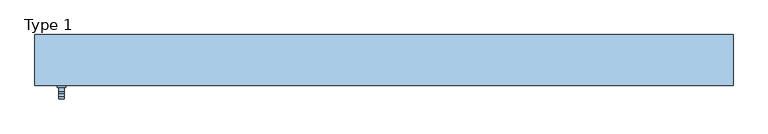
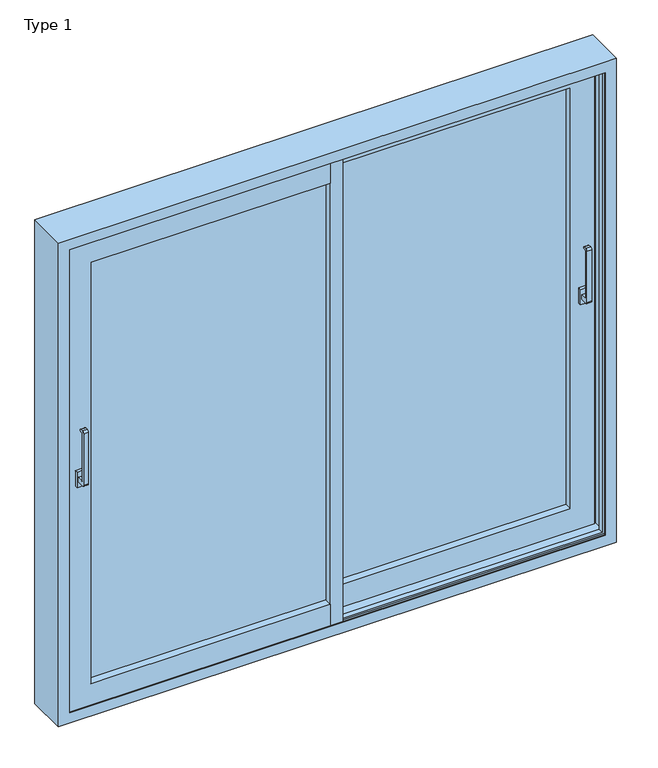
"""IFC4 building model written with IfcOpenShell, lengths in millimetres: window geometry, ETEM_ES70_Double_Lift_Sliding_NI : Type 1."""

from ifc_helpers import new_model, si_unit, point, frame, frame_2d, origin, place, context, project, spatial, polyline, circle_curve, trimmed, segment, composite_curve, outline, extrude, faceted_brep, source, transform, mapped, element, save


def type_1_6e610574(model_context):
    return source(origin(), model_context, "Body", "SolidModel", [
        extrude(outline(composite_curve([segment(polyline([(39.6, 1090.0), (8.0263152, 1090.0)]), True, "CONTINUOUS"), segment(trimmed(circle_curve(frame_2d((8.0263152, 1098.4263152)), 8.4263152), [point((8.0263152, 1090.0))], [point((-0.4, 1098.4263152))], False, "CARTESIAN"), True, "CONTINUOUS"), segment(polyline([(-0.4, 1098.4263152), (-0.4, 1331.5736848)]), True, "CONTINUOUS"), segment(trimmed(circle_curve(frame_2d((8.0263152, 1331.5736848)), 8.4263152), [point((-0.4, 1331.5736848))], [point((8.0263152, 1340.0))], False, "CARTESIAN"), True, "CONTINUOUS"), segment(polyline([(8.0263152, 1340.0), (19.6, 1340.0)]), True, "CONTINUOUS"), segment(trimmed(circle_curve(frame_2d((19.6, 1335.0)), 5.0), [point((19.6, 1340.0))], [point((19.6, 1330.0))], False, "CARTESIAN"), True, "CONTINUOUS"), segment(polyline([(19.6, 1330.0), (13.1355339, 1330.0)]), True, "CONTINUOUS"), segment(trimmed(circle_curve(frame_2d((13.1355339, 1326.4644661)), 3.5355339), [point((13.1355339, 1330.0))], [point((9.6, 1326.4644661))], True, "CARTESIAN"), True, "CONTINUOUS"), segment(polyline([(9.6, 1326.4644661), (9.6, 1113.5355339)]), True, "CONTINUOUS"), segment(trimmed(circle_curve(frame_2d((13.1355339, 1113.5355339)), 3.5355339), [point((9.6, 1113.5355339))], [point((13.1355339, 1110.0))], True, "CARTESIAN"), True, "CONTINUOUS"), segment(polyline([(13.1355339, 1110.0), (39.6, 1110.0), (39.6, 1090.0)]), True, "CONTINUOUS")], self_intersect=False)), frame((1098.5, 0.0, 0.0), z_axis=(1.0, 0.0, 0.0), x_axis=(0.0, 1.0, 0.0)), (0.0, 0.0, 1.0), 20.0),
        extrude(outline(polyline([(1123.5, 39.6), (1093.5, 39.6), (1093.5, 52.6), (1123.5, 52.6), (1123.5, 39.6)])), frame((0.0, 0.0, 1065.0), z_axis=(0.0, 0.0, 1.0), x_axis=(1.0, 0.0, 0.0)), (0.0, 0.0, 1.0), 70.0),
        extrude(outline(composite_curve([segment(polyline([(-50.4, 1090.0), (-81.9736848, 1090.0)]), True, "CONTINUOUS"), segment(trimmed(circle_curve(frame_2d((-81.9736848, 1098.4263152)), 8.4263152), [point((-81.9736848, 1090.0))], [point((-90.4, 1098.4263152))], False, "CARTESIAN"), True, "CONTINUOUS"), segment(polyline([(-90.4, 1098.4263152), (-90.4, 1331.5736848)]), True, "CONTINUOUS"), segment(trimmed(circle_curve(frame_2d((-81.9736848, 1331.5736848)), 8.4263152), [point((-90.4, 1331.5736848))], [point((-81.9736848, 1340.0))], False, "CARTESIAN"), True, "CONTINUOUS"), segment(polyline([(-81.9736848, 1340.0), (-70.4, 1340.0)]), True, "CONTINUOUS"), segment(trimmed(circle_curve(frame_2d((-70.4, 1335.0)), 5.0), [point((-70.4, 1340.0))], [point((-70.4, 1330.0))], False, "CARTESIAN"), True, "CONTINUOUS"), segment(polyline([(-70.4, 1330.0), (-76.8644661, 1330.0)]), True, "CONTINUOUS"), segment(trimmed(circle_curve(frame_2d((-76.8644661, 1326.4644661)), 3.5355339), [point((-76.8644661, 1330.0))], [point((-80.4, 1326.4644661))], True, "CARTESIAN"), True, "CONTINUOUS"), segment(polyline([(-80.4, 1326.4644661), (-80.4, 1113.5355339)]), True, "CONTINUOUS"), segment(trimmed(circle_curve(frame_2d((-76.8644661, 1113.5355339)), 3.5355339), [point((-80.4, 1113.5355339))], [point((-76.8644661, 1110.0))], True, "CARTESIAN"), True, "CONTINUOUS"), segment(polyline([(-76.8644661, 1110.0), (-50.4, 1110.0), (-50.4, 1090.0)]), True, "CONTINUOUS")], self_intersect=False)), frame((-1118.5, 0.0, 0.0), z_axis=(1.0, 0.0, 0.0), x_axis=(0.0, 1.0, 0.0)), (0.0, 0.0, 1.0), 20.0),
        extrude(outline(polyline([(-1093.5, -50.4), (-1123.5, -50.4), (-1123.5, -37.4), (-1093.5, -37.4), (-1093.5, -50.4)])), frame((0.0, 0.0, 1065.0), z_axis=(0.0, 0.0, 1.0), x_axis=(1.0, 0.0, 0.0)), (0.0, 0.0, 1.0), 70.0),
        faceted_brep([(-1200.0, 131.1, 0.0), (-1152.0, 131.1, 0.0), (-1152.0, 124.0, 0.0), (1152.0, 124.0, 0.0), (1152.0, 131.1, 0.0), (1200.0, 131.1, 0.0), (1200.0, -44.0, 0.0), (-1200.0, -44.0, 0.0), (-1200.0, 131.1, 2200.0), (1200.0, 131.1, 2200.0), (1152.0, 131.1, 2152.0), (-1152.0, 131.1, 2152.0), (-1152.0, 124.0, 2152.0), (-1152.0, 124.0, 16.3), (1152.0, 124.0, 2152.0), (1152.0, 124.0, 16.3), (1183.7, 124.0, 16.3), (1183.7, 124.0, 2183.7), (-1183.7, 124.0, 2183.7), (-1183.7, 124.0, 16.3), (-1183.7, 92.1, 16.3), (-1183.7, 92.1, 2183.7), (-1160.0, 106.1, 40.0), (-1160.0, 92.1, 40.0), (-1160.0, 92.1, 2160.0), (-1160.0, 106.1, 2160.0), (-1152.0, 83.1, 48.0), (-1152.0, 106.1, 48.0), (-1152.0, 106.1, 2152.0), (-1152.0, 83.1, 2152.0), (-1183.7, 2.1, 16.3), (-1183.7, 83.1, 16.3), (-1183.7, 83.1, 2183.7), (-1183.7, 2.1, 2183.7), (-1152.0, -20.9, 48.0), (-1152.0, 2.1, 48.0), (-1152.0, 2.1, 2152.0), (-1152.0, -20.9, 2152.0), (-1160.0, -6.9, 40.0), (-1160.0, -20.9, 40.0), (-1160.0, -20.9, 2160.0), (-1160.0, -6.9, 2160.0), (-1183.7, -40.2, 16.3), (-1183.7, -6.9, 16.3), (-1183.7, -6.9, 2183.7), (-1183.7, -40.2, 2183.7), (-1152.0, -44.0, 48.0), (-1152.0, -40.2, 48.0), (-1152.0, -40.2, 2152.0), (-1152.0, -44.0, 2152.0), (-1200.0, -44.0, 2200.0), (1152.0, -44.0, 2152.0), (1152.0, -40.2, 2152.0), (1152.0, -40.2, 48.0), (1152.0, -44.0, 48.0), (1183.7, -40.2, 2183.7), (1183.7, -6.9, 2183.7), (1183.7, -6.9, 16.3), (1183.7, -40.2, 16.3), (1160.0, -6.9, 2160.0), (1160.0, -20.9, 2160.0), (1160.0, -20.9, 40.0), (1160.0, -6.9, 40.0), (1152.0, -20.9, 2152.0), (1152.0, 2.1, 2152.0), (1152.0, 2.1, 48.0), (1152.0, -20.9, 48.0), (1183.7, 2.1, 2183.7), (1183.7, 83.1, 2183.7), (1183.7, 83.1, 16.3), (1183.7, 2.1, 16.3), (1152.0, 83.1, 2152.0), (1152.0, 106.1, 2152.0), (1152.0, 106.1, 48.0), (1152.0, 83.1, 48.0), (1160.0, 106.1, 2160.0), (1160.0, 92.1, 2160.0), (1160.0, 92.1, 40.0), (1160.0, 106.1, 40.0), (1183.7, 92.1, 2183.7), (1183.7, 92.1, 16.3), (1200.0, -44.0, 2200.0)], [[[0, 1, 2, 3, 4, 5, 6, 7]], [[1, 0, 8, 9, 5, 4, 10, 11]], [[2, 1, 11, 12, 13]], [[12, 14, 15, 16, 17, 18, 19, 13]], [[20, 19, 18, 21]], [[22, 23, 24, 25]], [[26, 27, 28, 29]], [[30, 31, 32, 33]], [[34, 35, 36, 37]], [[38, 39, 40, 41]], [[42, 43, 44, 45]], [[46, 47, 48, 49]], [[0, 7, 50, 8]], [[51, 52, 53, 54]], [[55, 56, 57, 58]], [[59, 60, 61, 62]], [[63, 64, 65, 66]], [[67, 68, 69, 70]], [[71, 72, 73, 74]], [[75, 76, 77, 78]], [[79, 17, 16, 80]], [[4, 3, 15, 14, 10]], [[6, 5, 9, 81]], [[11, 10, 14, 12]], [[9, 8, 50, 81]], [[21, 18, 17, 79]], [[25, 24, 76, 75]], [[29, 28, 72, 71]], [[33, 32, 68, 67]], [[37, 36, 64, 63]], [[41, 40, 60, 59]], [[45, 44, 56, 55]], [[49, 48, 52, 51]], [[50, 7, 6, 81], [46, 49, 51, 54]], [[19, 20, 80, 16, 15, 13]], [[20, 21, 79, 80], [24, 23, 77, 76]], [[23, 22, 78, 77]], [[22, 25, 75, 78], [28, 27, 73, 72]], [[27, 26, 74, 73]], [[32, 31, 69, 68], [26, 29, 71, 74]], [[31, 30, 70, 69]], [[30, 33, 67, 70], [36, 35, 65, 64]], [[35, 34, 66, 65]], [[40, 39, 61, 60], [34, 37, 63, 66]], [[39, 38, 62, 61]], [[44, 43, 57, 56], [38, 41, 59, 62]], [[43, 42, 58, 57]], [[42, 45, 55, 58], [48, 47, 53, 52]], [[47, 46, 54, 53]], [[3, 2, 13, 15]]]),
        faceted_brep([(-27.0, 32.6, 142.0188293), (-27.0, -37.4, 142.0188293), (-27.0, -37.4, 39.0188293), (-27.0, -25.0, 39.0188293), (-27.0, -25.0, 70.1188293), (-27.0, 20.2, 70.1188293), (-27.0, 20.2, 39.0188293), (-27.0, 32.6, 39.0188293), (-1058.0, 32.6, 142.0188293), (-1058.0, -37.4, 142.0188293), (-1058.0, -37.4, 2058.0), (-27.0, -37.4, 2058.0), (-27.0, -37.4, 2161.0), (-1161.0, -37.4, 2161.0), (-1161.0, -37.4, 39.0188293), (-1161.0, -25.0, 39.0188293), (-1161.0, -25.0, 2161.0), (-27.0, -25.0, 2161.0), (-27.0, -25.0, 2129.9), (-1129.9, -25.0, 2129.9), (-1129.9, -25.0, 70.1188293), (-1129.9, 20.2, 70.1188293), (-1129.9, 20.2, 2129.9), (-27.0, 20.2, 2129.9), (-27.0, 20.2, 2161.0), (-1161.0, 20.2, 2161.0), (-1161.0, 20.2, 39.0188293), (-1161.0, 32.6, 39.0188293), (-1161.0, 32.6, 2161.0), (-27.0, 32.6, 2161.0), (-27.0, 32.6, 2058.0), (-1058.0, 32.6, 2058.0)], [[[0, 1, 2, 3, 4, 5, 6, 7]], [[1, 0, 8, 9]], [[2, 1, 9, 10, 11, 12, 13, 14]], [[3, 2, 14, 15]], [[4, 3, 15, 16, 17, 18, 19, 20]], [[5, 4, 20, 21]], [[6, 5, 21, 22, 23, 24, 25, 26]], [[7, 6, 26, 27]], [[0, 7, 27, 28, 29, 30, 31, 8]], [[9, 8, 31, 10]], [[15, 14, 13, 16]], [[21, 20, 19, 22]], [[27, 26, 25, 28]], [[30, 29, 24, 23, 18, 17, 12, 11]], [[10, 31, 30, 11]], [[16, 13, 12, 17]], [[22, 19, 18, 23]], [[28, 25, 24, 29]]]),
        extrude(outline(polyline([(-1058.0, 2.6007591), (-27.0, 2.6007591), (-27.0, -3.3992409), (-1058.0, -3.3992409), (-1058.0, 2.6007591)])), frame((0.0, 0.0, 142.0188293), z_axis=(0.0, 0.0, 1.0), x_axis=(1.0, 0.0, 0.0)), (0.0, 0.0, 1.0), 1915.9811707),
        extrude(outline(polyline([(27.0, 114.6007591), (1058.0, 114.6007591), (1058.0, 108.6007591), (27.0, 108.6007591), (27.0, 114.6007591)])), frame((0.0, 0.0, 142.0188293), z_axis=(0.0, 0.0, 1.0), x_axis=(1.0, 0.0, 0.0)), (0.0, 0.0, 1.0), 1915.9811707),
        faceted_brep([(27.0, 122.6, 142.0188293), (27.0, 122.6, 39.0188293), (27.0, 110.2, 39.0188293), (27.0, 110.2, 70.1188293), (27.0, 65.0, 70.1188293), (27.0, 65.0, 39.0188293), (27.0, 52.6, 39.0188293), (27.0, 52.6, 142.0188293), (1058.0, 122.6, 142.0188293), (1058.0, 122.6, 2058.0), (27.0, 122.6, 2058.0), (27.0, 122.6, 2161.0), (1161.0, 122.6, 2161.0), (1161.0, 122.6, 39.0188293), (1161.0, 110.2, 39.0188293), (1161.0, 110.2, 2161.0), (27.0, 110.2, 2161.0), (27.0, 110.2, 2129.9), (1129.9, 110.2, 2129.9), (1129.9, 110.2, 70.1188293), (1129.9, 65.0, 70.1188293), (1129.9, 65.0, 2129.9), (27.0, 65.0, 2129.9), (27.0, 65.0, 2161.0), (1161.0, 65.0, 2161.0), (1161.0, 65.0, 39.0188293), (1161.0, 52.6, 39.0188293), (1161.0, 52.6, 2161.0), (27.0, 52.6, 2161.0), (27.0, 52.6, 2058.0), (1058.0, 52.6, 2058.0), (1058.0, 52.6, 142.0188293)], [[[0, 1, 2, 3, 4, 5, 6, 7]], [[1, 0, 8, 9, 10, 11, 12, 13]], [[2, 1, 13, 14]], [[3, 2, 14, 15, 16, 17, 18, 19]], [[4, 3, 19, 20]], [[5, 4, 20, 21, 22, 23, 24, 25]], [[6, 5, 25, 26]], [[7, 6, 26, 27, 28, 29, 30, 31]], [[0, 7, 31, 8]], [[8, 31, 30, 9]], [[14, 13, 12, 15]], [[20, 19, 18, 21]], [[26, 25, 24, 27]], [[10, 29, 28, 23, 22, 17, 16, 11]], [[15, 12, 11, 16]], [[21, 18, 17, 22]], [[27, 24, 23, 28]], [[9, 30, 29, 10]]]),
        extrude(outline(polyline([(27.0, -37.4), (-27.0, -37.4), (-27.0, 32.6), (18.6, 32.6), (18.6, 48.6), (27.0, 48.6), (27.0, -37.4)])), frame((0.0, 0.0, 39.0188293), z_axis=(0.0, 0.0, 1.0), x_axis=(1.0, 0.0, 0.0)), (0.0, 0.0, 1.0), 2121.9811707),
        extrude(outline(polyline([(-27.0, 122.6), (27.0, 122.6), (27.0, 52.6), (-18.6, 52.6), (-18.6, 36.6), (-27.0, 36.6), (-27.0, 122.6)])), frame((0.0, 0.0, 39.0188293), z_axis=(0.0, 0.0, 1.0), x_axis=(1.0, 0.0, 0.0)), (0.0, 0.0, 1.0), 2121.9811707),
        extrude(outline(polyline([(-1058.0, 24.6007591), (-27.0, 24.6007591), (-27.0, 18.6007591), (-1058.0, 18.6007591), (-1058.0, 24.6007591)])), frame((0.0, 0.0, 142.0188293), z_axis=(0.0, 0.0, 1.0), x_axis=(1.0, 0.0, 0.0)), (0.0, 0.0, 1.0), 1915.9811707),
        extrude(outline(polyline([(27.0, 92.6007591), (1058.0, 92.6007591), (1058.0, 86.6007591), (27.0, 86.6007591), (27.0, 92.6007591)])), frame((0.0, 0.0, 142.0188293), z_axis=(0.0, 0.0, 1.0), x_axis=(1.0, 0.0, 0.0)), (0.0, 0.0, 1.0), 1915.9811707),
    ])


if __name__ == "__main__":
    model = new_model("IFC4")
    model_context = context("Model", 3, world=origin())
    ifc_project = project(units=[si_unit("LENGTHUNIT", "METRE", prefix="MILLI")], contexts=[model_context])
    site = spatial("IfcSite", under=ifc_project)
    building = spatial("IfcBuilding", under=site)
    placement = place(None, origin())
    type_1_shape = type_1_6e610574(model_context)
    element("IfcWindow", 1, ObjectType="ETEM_ES70_Double_Lift_Sliding_NI : Type 1", at=placement, inside=building, context=model_context, shape_type="MappedRepresentation", body=[
        mapped(type_1_shape, transform((0.0, 0.0, 0.0), x_axis=(1.0, 0.0, 0.0), y_axis=(0.0, 1.0, 0.0), z_axis=(0.0, 0.0, 1.0))),
    ])
    save(model, "model.ifc")
